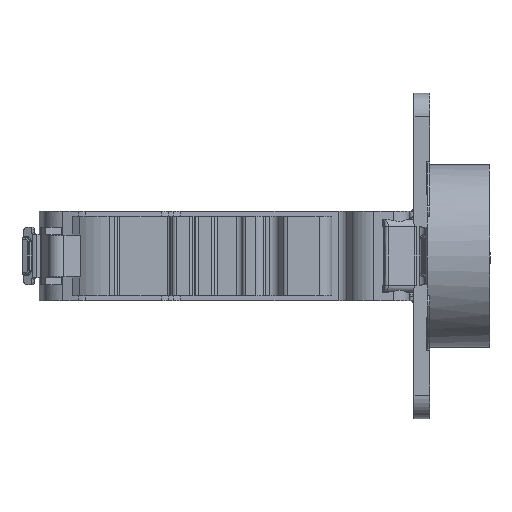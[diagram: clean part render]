
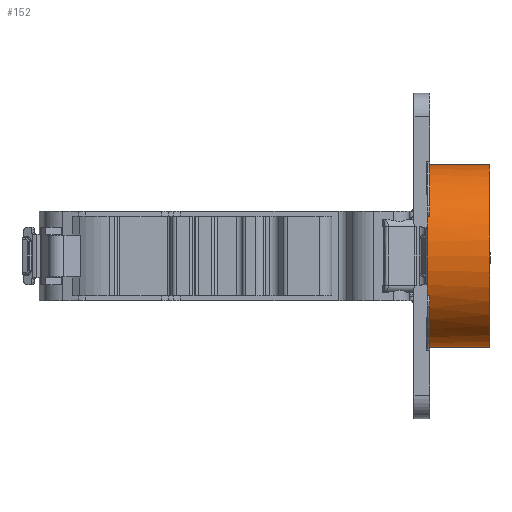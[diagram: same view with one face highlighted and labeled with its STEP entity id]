
A CAD part, front view. The second image highlights one B-rep face of the part: STEP entity #152.
In plain terms, the highlighted cylindrical face has radius 17.45 mm (diameter 34.9 mm), a partial arc.
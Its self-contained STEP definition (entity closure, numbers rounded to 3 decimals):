
#67 = VECTOR ( 'NONE', #10639, 1000. ) ;
#152 = ADVANCED_FACE ( 'NONE', ( #10142 ), #176, .T. ) ;
#176 = CYLINDRICAL_SURFACE ( 'NONE', #2550, 17.45 ) ;
#309 = EDGE_LOOP ( 'NONE', ( #9689, #6265, #8772, #2669, #707, #875, #1236, #3462, #7011, #2402 ) ) ;
#441 = CIRCLE ( 'NONE', #9164, 17.45 ) ;
#454 = EDGE_CURVE ( 'NONE', #12629, #3528, #3793, .T. ) ;
#634 = EDGE_CURVE ( 'NONE', #1303, #5893, #2587, .T. ) ;
#707 = ORIENTED_EDGE ( 'NONE', *, *, #789, .F. ) ;
#789 = EDGE_CURVE ( 'NONE', #4982, #1303, #6392, .T. ) ;
#793 = CARTESIAN_POINT ( 'NONE',  ( 38.5, 5.5, 0. ) ) ;
#875 = ORIENTED_EDGE ( 'NONE', *, *, #12648, .T. ) ;
#1081 = CARTESIAN_POINT ( 'NONE',  ( 49.9, 5.5, 0. ) ) ;
#1236 = ORIENTED_EDGE ( 'NONE', *, *, #1762, .F. ) ;
#1283 = CARTESIAN_POINT ( 'NONE',  ( 38., -9.966, -8.081 ) ) ;
#1303 = VERTEX_POINT ( 'NONE', #10763 ) ;
#1470 = VERTEX_POINT ( 'NONE', #3359 ) ;
#1525 = CARTESIAN_POINT ( 'NONE',  ( 38.039, -10.243, 7.528 ) ) ;
#1762 = EDGE_CURVE ( 'NONE', #1470, #2121, #12225, .T. ) ;
#2024 = B_SPLINE_CURVE_WITH_KNOTS ( 'NONE', 3,
 ( #10601, #12512, #11659, #6660 ),
 .UNSPECIFIED., .F., .F.,
 ( 4, 4 ),
 ( 0., 0.001 ),
 .UNSPECIFIED. ) ;
#2121 = VERTEX_POINT ( 'NONE', #3635 ) ;
#2402 = ORIENTED_EDGE ( 'NONE', *, *, #8413, .F. ) ;
#2411 = CARTESIAN_POINT ( 'NONE',  ( 43.35, -10.243, -7.528 ) ) ;
#2550 = AXIS2_PLACEMENT_3D ( 'NONE', #1081, #6877, #7122 ) ;
#2587 = CIRCLE ( 'NONE', #3831, 17.45 ) ;
#2669 = ORIENTED_EDGE ( 'NONE', *, *, #634, .F. ) ;
#2778 = DIRECTION ( 'NONE',  ( 0., 1., 0. ) ) ;
#3264 = DIRECTION ( 'NONE',  ( 1., 0., 0. ) ) ;
#3359 = CARTESIAN_POINT ( 'NONE',  ( 38., -9.966, -8.081 ) ) ;
#3367 = CARTESIAN_POINT ( 'NONE',  ( 38.5, 5.5, 17.45 ) ) ;
#3462 = ORIENTED_EDGE ( 'NONE', *, *, #8562, .T. ) ;
#3463 = EDGE_CURVE ( 'NONE', #9145, #12629, #441, .T. ) ;
#3483 = CARTESIAN_POINT ( 'NONE',  ( 50., 5.5, 0. ) ) ;
#3489 = CARTESIAN_POINT ( 'NONE',  ( 38.019, -10.154, -7.714 ) ) ;
#3528 = VERTEX_POINT ( 'NONE', #9876 ) ;
#3635 = CARTESIAN_POINT ( 'NONE',  ( 38., -9.966, 8.081 ) ) ;
#3739 = DIRECTION ( 'NONE',  ( 0., 1., 0. ) ) ;
#3793 = LINE ( 'NONE', #7575, #4841 ) ;
#3831 = AXIS2_PLACEMENT_3D ( 'NONE', #4113, #4899, #5947 ) ;
#4113 = CARTESIAN_POINT ( 'NONE',  ( 38.5, 5.5, 0. ) ) ;
#4314 = CARTESIAN_POINT ( 'NONE',  ( 43.35, -10.243, 7.528 ) ) ;
#4398 = VERTEX_POINT ( 'NONE', #9961 ) ;
#4841 = VECTOR ( 'NONE', #7703, 1000. ) ;
#4899 = DIRECTION ( 'NONE',  ( -1., 0., 0. ) ) ;
#4982 = VERTEX_POINT ( 'NONE', #1525 ) ;
#5069 = VECTOR ( 'NONE', #3264, 1000. ) ;
#5242 = CARTESIAN_POINT ( 'NONE',  ( 38., -10.062, -7.898 ) ) ;
#5391 = EDGE_CURVE ( 'NONE', #9145, #5893, #7426, .T. ) ;
#5729 = DIRECTION ( 'NONE',  ( -1., 0., 0. ) ) ;
#5893 = VERTEX_POINT ( 'NONE', #3367 ) ;
#5947 = DIRECTION ( 'NONE',  ( 0., -1., 0. ) ) ;
#6007 = CARTESIAN_POINT ( 'NONE',  ( 50., 5.5, 17.45 ) ) ;
#6265 = ORIENTED_EDGE ( 'NONE', *, *, #3463, .F. ) ;
#6392 = LINE ( 'NONE', #4314, #5069 ) ;
#6472 = DIRECTION ( 'NONE',  ( 1., 0., 0. ) ) ;
#6521 = EDGE_CURVE ( 'NONE', #4398, #6556, #9386, .T. ) ;
#6556 = VERTEX_POINT ( 'NONE', #11643 ) ;
#6660 = CARTESIAN_POINT ( 'NONE',  ( 38., -9.966, 8.081 ) ) ;
#6744 = DIRECTION ( 'NONE',  ( -1., 0., 0. ) ) ;
#6877 = DIRECTION ( 'NONE',  ( -1., 0., 0. ) ) ;
#6896 = DIRECTION ( 'NONE',  ( 0., -1., 0. ) ) ;
#6927 = CIRCLE ( 'NONE', #8592, 17.45 ) ;
#7011 = ORIENTED_EDGE ( 'NONE', *, *, #6521, .F. ) ;
#7122 = DIRECTION ( 'NONE',  ( 0., 0., 1. ) ) ;
#7426 = LINE ( 'NONE', #11446, #67 ) ;
#7575 = CARTESIAN_POINT ( 'NONE',  ( 49.9, 5.5, -17.45 ) ) ;
#7703 = DIRECTION ( 'NONE',  ( -1., 0., 0. ) ) ;
#8232 = AXIS2_PLACEMENT_3D ( 'NONE', #12723, #6744, #2778 ) ;
#8413 = EDGE_CURVE ( 'NONE', #3528, #4398, #6927, .T. ) ;
#8562 = EDGE_CURVE ( 'NONE', #1470, #6556, #9479, .T. ) ;
#8592 = AXIS2_PLACEMENT_3D ( 'NONE', #793, #5729, #6896 ) ;
#8772 = ORIENTED_EDGE ( 'NONE', *, *, #5391, .T. ) ;
#9145 = VERTEX_POINT ( 'NONE', #6007 ) ;
#9164 = AXIS2_PLACEMENT_3D ( 'NONE', #3483, #6472, #3739 ) ;
#9386 = LINE ( 'NONE', #2411, #10404 ) ;
#9479 = B_SPLINE_CURVE_WITH_KNOTS ( 'NONE', 3,
 ( #1283, #5242, #3489, #12259 ),
 .UNSPECIFIED., .F., .F.,
 ( 4, 4 ),
 ( 0., 0.001 ),
 .UNSPECIFIED. ) ;
#9689 = ORIENTED_EDGE ( 'NONE', *, *, #454, .F. ) ;
#9876 = CARTESIAN_POINT ( 'NONE',  ( 38.5, 5.5, -17.45 ) ) ;
#9961 = CARTESIAN_POINT ( 'NONE',  ( 38.5, -10.243, -7.528 ) ) ;
#10142 = FACE_OUTER_BOUND ( 'NONE', #309, .T. ) ;
#10404 = VECTOR ( 'NONE', #12295, 1000. ) ;
#10601 = CARTESIAN_POINT ( 'NONE',  ( 38.039, -10.243, 7.528 ) ) ;
#10639 = DIRECTION ( 'NONE',  ( -1., 0., 0. ) ) ;
#10763 = CARTESIAN_POINT ( 'NONE',  ( 38.5, -10.243, 7.528 ) ) ;
#11446 = CARTESIAN_POINT ( 'NONE',  ( 49.9, 5.5, 17.45 ) ) ;
#11529 = CARTESIAN_POINT ( 'NONE',  ( 50., 5.5, -17.45 ) ) ;
#11643 = CARTESIAN_POINT ( 'NONE',  ( 38.039, -10.243, -7.528 ) ) ;
#11659 = CARTESIAN_POINT ( 'NONE',  ( 38., -10.062, 7.898 ) ) ;
#12225 = CIRCLE ( 'NONE', #8232, 17.45 ) ;
#12259 = CARTESIAN_POINT ( 'NONE',  ( 38.039, -10.243, -7.528 ) ) ;
#12295 = DIRECTION ( 'NONE',  ( -1., 0., 0. ) ) ;
#12512 = CARTESIAN_POINT ( 'NONE',  ( 38.019, -10.154, 7.714 ) ) ;
#12629 = VERTEX_POINT ( 'NONE', #11529 ) ;
#12648 = EDGE_CURVE ( 'NONE', #4982, #2121, #2024, .T. ) ;
#12723 = CARTESIAN_POINT ( 'NONE',  ( 38., 5.5, 0. ) ) ;
